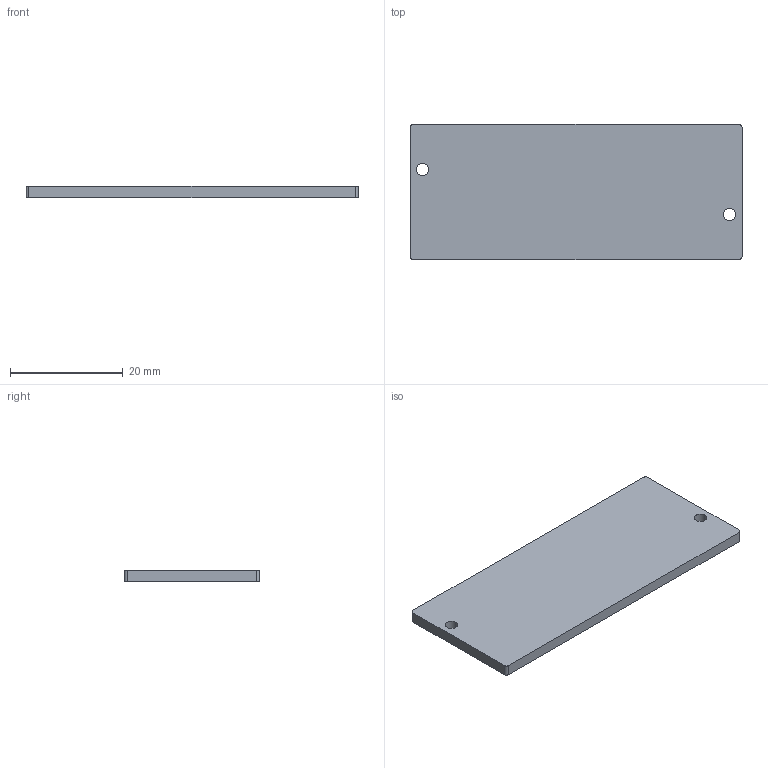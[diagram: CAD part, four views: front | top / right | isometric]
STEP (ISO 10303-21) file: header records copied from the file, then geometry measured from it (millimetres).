
FILE_DESCRIPTION (( 'STEP AP214' ), '1' );
FILE_NAME ('LBS25-00-050 DIFFUSER.STEP', '2021-10-13T03:58:13', ( '' ), ( '' ), 'SwSTEP 2.0', 'SolidWorks 2021', '' );
FILE_SCHEMA (( 'AUTOMOTIVE_DESIGN' ));
Length unit declared in the file: millimetre
Products named in the file (1): LBS25-00-050 DIFFUSER
Bounding box: 59 x 24 x 2 mm (x, y, z)
Volume: 2816.4 mm3; surface area: 3174.3 mm2
Topology: 1 solids, 1 shells, 14 faces, 36 edges, 24 vertices
Faces by surface type: cylinder 8, plane 6
Entity records: 478 total; most frequent: DIRECTION 82, CARTESIAN_POINT 75, ORIENTED_EDGE 72, EDGE_CURVE 36, AXIS2_PLACEMENT_3D 31, VERTEX_POINT 24, LINE 20, VECTOR 20
